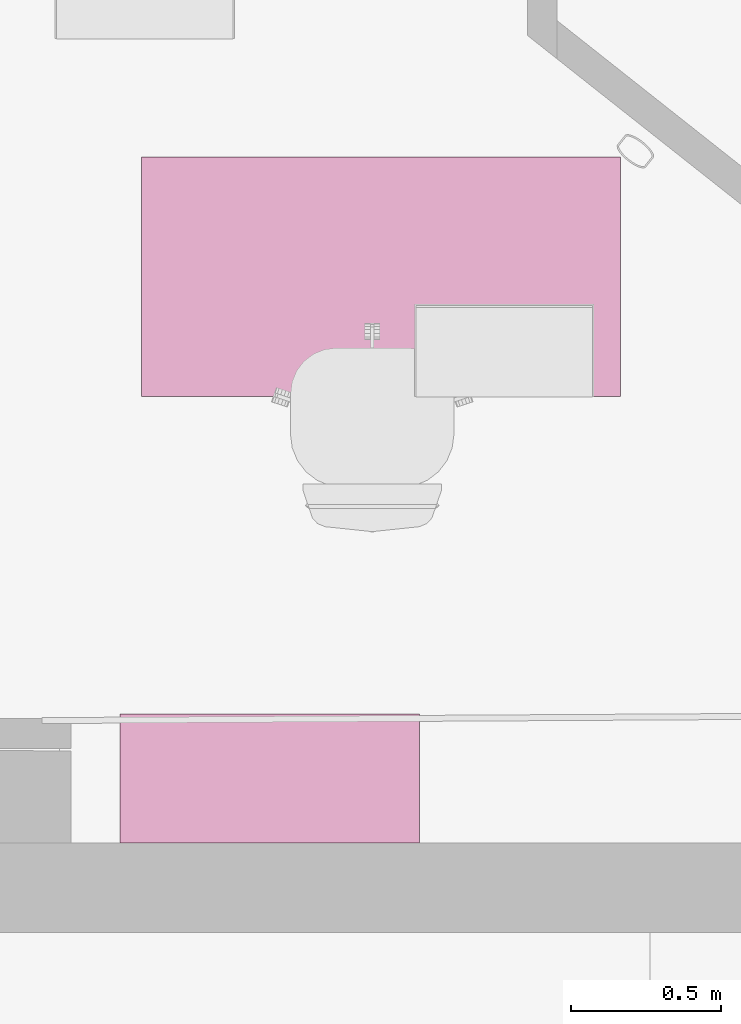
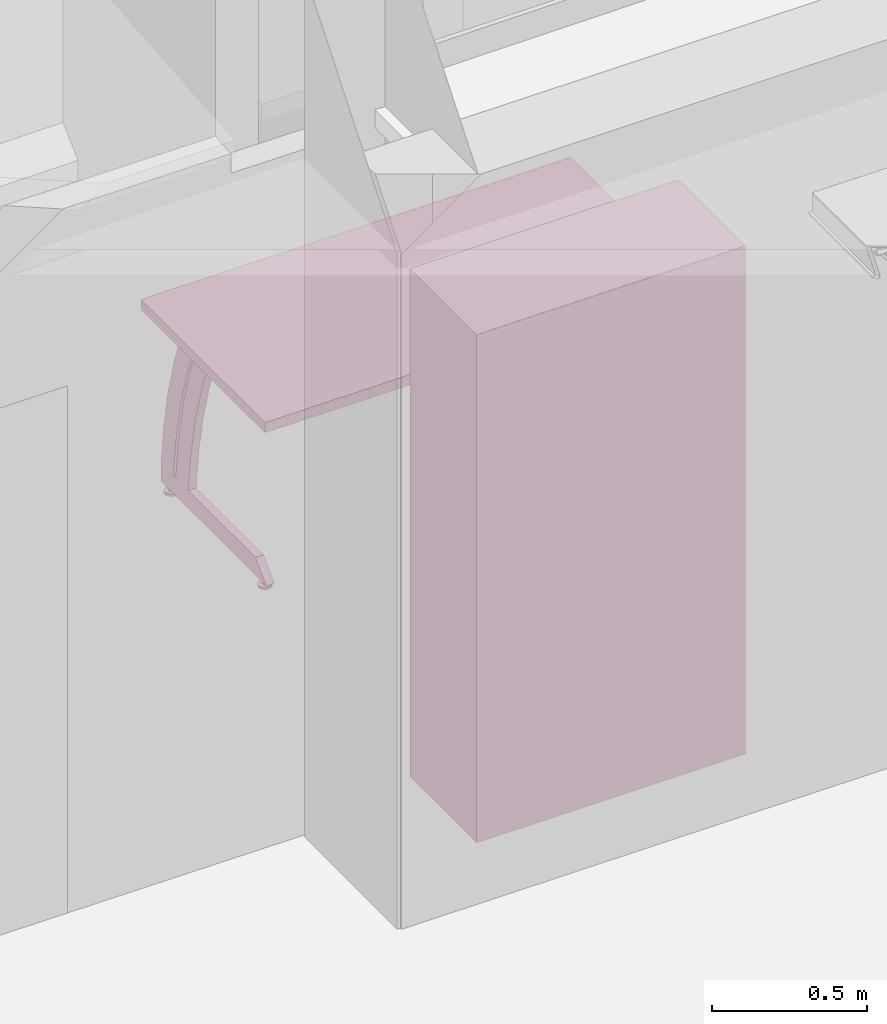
# One storey, part 84 of 128: 2 furnishings.
"""IFC2X3 building model written with IfcOpenShell, lengths in metres."""

from ifc_helpers import new_model, entity, si_unit, converted_unit, derived_unit, direction, frame, origin, origin_2d_with_axis, place, context, subcontext, project, spatial, rectangle, extrude, faceted_brep, source, transform, mapped, material, type_object, type_shapes, element, save


model = new_model("IFC2X3")

# Units and contexts
model_context = context("Model", 3, precision=1e-05, world=origin(), true_north=direction((6.123031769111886e-17, 1.0)))
body_context = subcontext(model_context, "Body", "Model", "MODEL_VIEW")
ifc_project = project(units=[si_unit("LENGTHUNIT", "METRE"), si_unit("AREAUNIT", "SQUARE_METRE"), converted_unit("PLANEANGLEUNIT", "DEGREE", entity("IfcPlaneAngleMeasure", 0.017453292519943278), si_unit("PLANEANGLEUNIT", "RADIAN"), dimensions=[0, 0, 0, 0, 0, 0, 0]), derived_unit("THERMALTRANSMITTANCEUNIT", [(si_unit("MASSUNIT", "GRAM", prefix="KILO"), 1), (si_unit("THERMODYNAMICTEMPERATUREUNIT", "KELVIN"), -1), (si_unit("TIMEUNIT", "SECOND"), -3)])], contexts=[model_context])

# Site, building, storey
site_placement = place(None, origin())
site = spatial("IfcSite", under=ifc_project, at=site_placement, Name="Default", CompositionType="ELEMENT")
building_placement = place(site_placement, origin())
building = spatial("IfcBuilding", under=site, at=building_placement, CompositionType="ELEMENT")
storey_placement = place(building_placement, origin())
storey = spatial("IfcBuildingStorey", under=building, at=storey_placement, Name="00_RDC CAF", CompositionType="ELEMENT", Elevation=2.4982504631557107e-13)

# Furnishings
ifc_material = material(Name="ARC - Mo - Blanc")
furniture_type_1 = type_object("IfcFurnitureType", Name="Mo_Bureau:Mo_Bureau_1600x800mm", AssemblyPlace="NOTDEFINED", material=ifc_material)
shared_shape_1 = source(origin(), body_context, "Body", "Brep", [
    faceted_brep([(0.05999999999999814, -0.6962325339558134, 0.0), (0.03622358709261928, -0.6885071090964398, 0.0), (0.04076447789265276, -0.6822571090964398, 0.0), (0.04530536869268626, -0.6760071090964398, 0.0), (0.05265268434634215, -0.6736198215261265, 0.0), (0.059999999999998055, -0.6712325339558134, 0.0), (0.06734731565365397, -0.6736198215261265, 0.0), (0.03622358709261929, -0.6962325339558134, 0.0), (0.03622358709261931, -0.7039579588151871, 0.0), (0.04076447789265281, -0.7102079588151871, 0.0), (0.045305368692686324, -0.7164579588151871, 0.0), (0.05265268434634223, -0.7188452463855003, 0.0), (0.05999999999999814, -0.7212325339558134, 0.0), (0.07469463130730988, -0.6760071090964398, 0.0), (0.07923552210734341, -0.6822571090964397, 0.0), (0.08377641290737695, -0.6885071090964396, 0.0), (0.08377641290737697, -0.6962325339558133, 0.0), (0.0673473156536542, -0.7188452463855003, 0.0), (0.07469463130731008, -0.716457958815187, 0.0), (0.07923552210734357, -0.7102079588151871, 0.0), (0.08377641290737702, -0.703957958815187, 0.0), (0.05999999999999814, -0.6962325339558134, 0.024999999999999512), (0.0599999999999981, -0.6862325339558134, 0.024999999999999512), (0.05133974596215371, -0.6912325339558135, 0.024999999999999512), (0.05133974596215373, -0.7012325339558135, 0.024999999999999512), (0.05999999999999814, -0.7062325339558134, 0.024999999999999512), (0.06866025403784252, -0.6912325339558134, 0.024999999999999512), (0.06866025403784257, -0.7012325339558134, 0.024999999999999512), (0.05133974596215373, -0.7012325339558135, 0.010000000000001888), (0.05999999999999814, -0.7062325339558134, 0.010000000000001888), (0.05133974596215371, -0.6912325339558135, 0.010000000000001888), (0.05999999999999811, -0.6862325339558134, 0.010000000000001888), (0.06866025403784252, -0.6912325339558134, 0.010000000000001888), (0.06866025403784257, -0.7012325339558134, 0.010000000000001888), (0.05999999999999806, -0.6712325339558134, 0.010000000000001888), (0.0555460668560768, -0.6726797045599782, 0.010000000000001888), (0.051092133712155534, -0.6741268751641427, 0.010000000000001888), (0.04530536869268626, -0.6760071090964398, 0.010000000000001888), (0.06734731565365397, -0.6736198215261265, 0.010000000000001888), (0.07469463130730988, -0.6760071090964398, 0.010000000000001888), (0.07923552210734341, -0.6822571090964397, 0.010000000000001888), (0.08377641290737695, -0.6885071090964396, 0.010000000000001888), (0.08377641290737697, -0.6962325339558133, 0.010000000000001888), (0.08377641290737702, -0.703957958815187, 0.010000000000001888), (0.07923552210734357, -0.7102079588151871, 0.010000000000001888), (0.07469463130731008, -0.716457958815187, 0.010000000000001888), (0.06890786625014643, -0.7183381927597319, 0.010000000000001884), (0.06445393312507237, -0.7197853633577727, 0.010000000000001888), (0.05999999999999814, -0.7212325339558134, 0.010000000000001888), (0.05265268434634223, -0.7188452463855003, 0.010000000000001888), (0.045305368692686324, -0.7164579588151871, 0.010000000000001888), (0.03622358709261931, -0.7039579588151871, 0.010000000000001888), (0.04076447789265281, -0.7102079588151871, 0.010000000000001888), (0.04076447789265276, -0.6822571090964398, 0.010000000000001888), (0.03622358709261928, -0.6885071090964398, 0.010000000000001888), (0.03622358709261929, -0.6962325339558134, 0.010000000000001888)], [[[0, 1, 2]], [[0, 2, 3]], [[0, 3, 4]], [[0, 4, 5]], [[0, 5, 6]], [[0, 7, 1]], [[0, 8, 7]], [[0, 9, 8]], [[0, 10, 9]], [[0, 11, 10]], [[0, 12, 11]], [[0, 6, 13]], [[0, 13, 14]], [[0, 14, 15]], [[0, 15, 16]], [[0, 17, 12]], [[0, 18, 17]], [[0, 19, 18]], [[0, 20, 19]], [[0, 16, 20]], [[21, 22, 23]], [[23, 24, 21]], [[24, 25, 21]], [[21, 26, 22]], [[25, 27, 21]], [[26, 21, 27]], [[25, 24, 28, 29]], [[24, 23, 30, 28]], [[23, 22, 31, 30]], [[22, 26, 32, 31]], [[26, 27, 33, 32]], [[27, 25, 29, 33]], [[31, 34, 35]], [[31, 35, 36]], [[31, 36, 37]], [[31, 37, 30]], [[31, 38, 34]], [[31, 39, 38]], [[32, 39, 31]], [[32, 40, 39]], [[32, 41, 40]], [[32, 42, 41]], [[32, 43, 42]], [[32, 33, 43]], [[33, 44, 43]], [[33, 45, 44]], [[33, 29, 45]], [[29, 46, 45]], [[29, 47, 46]], [[29, 48, 47]], [[29, 49, 48]], [[29, 50, 49]], [[29, 28, 50]], [[30, 51, 28]], [[28, 51, 52]], [[28, 52, 50]], [[30, 37, 53]], [[30, 53, 54]], [[30, 54, 55]], [[30, 55, 51]], [[11, 12, 48, 49, 50, 10]], [[8, 9, 10, 50, 52, 51]], [[7, 8, 51, 55, 54, 1]], [[3, 37, 36, 35, 34, 5, 4]], [[54, 53, 37, 3, 2, 1]], [[6, 5, 34, 38, 39, 13]], [[15, 14, 13, 39, 40, 41]], [[16, 15, 41, 42, 43, 20]], [[18, 45, 46, 47, 48, 12, 17]], [[43, 44, 45, 18, 19, 20]]]),
    faceted_brep([(0.05999999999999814, -0.09132706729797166, 0.0), (0.03622358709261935, -0.08360164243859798, 0.0), (0.04076447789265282, -0.07735164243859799, 0.0), (0.0453053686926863, -0.07110164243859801, 0.0), (0.05265268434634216, -0.06871435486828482, 0.0), (0.059999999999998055, -0.06632706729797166, 0.0), (0.06734731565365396, -0.06871435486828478, 0.0), (0.03622358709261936, -0.09132706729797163, 0.0), (0.03622358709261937, -0.09905249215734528, 0.0), (0.04076447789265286, -0.10530249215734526, 0.0), (0.04530536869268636, -0.11155249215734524, 0.0), (0.05265268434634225, -0.11393977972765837, 0.0), (0.05999999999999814, -0.11632706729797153, 0.0), (0.07469463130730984, -0.0711016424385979, 0.0), (0.07923552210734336, -0.07735164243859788, 0.0), (0.08377641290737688, -0.08360164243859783, 0.0), (0.0837764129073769, -0.09132706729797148, 0.0), (0.06734731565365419, -0.11393977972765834, 0.0), (0.07469463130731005, -0.11155249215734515, 0.0), (0.07923552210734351, -0.10530249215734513, 0.0), (0.08377641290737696, -0.09905249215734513, 0.0), (0.05999999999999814, -0.09132706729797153, 0.024999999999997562), (0.0599999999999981, -0.08132706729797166, 0.024999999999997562), (0.05133974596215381, -0.08632706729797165, 0.024999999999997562), (0.05133974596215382, -0.09632706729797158, 0.024999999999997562), (0.05999999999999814, -0.10132706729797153, 0.024999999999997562), (0.06866025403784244, -0.0863270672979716, 0.024999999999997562), (0.06866025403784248, -0.09632706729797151, 0.024999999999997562), (0.05133974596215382, -0.09632706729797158, 0.009999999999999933), (0.05999999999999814, -0.10132706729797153, 0.009999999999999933), (0.05133974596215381, -0.08632706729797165, 0.009999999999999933), (0.05999999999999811, -0.08132706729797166, 0.009999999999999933), (0.06866025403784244, -0.0863270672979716, 0.009999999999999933), (0.06866025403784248, -0.09632706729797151, 0.009999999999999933), (0.05999999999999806, -0.06632706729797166, 0.009999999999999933), (0.055546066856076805, -0.06777423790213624, 0.00999999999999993), (0.051092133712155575, -0.06922140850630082, 0.00999999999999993), (0.0453053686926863, -0.07110164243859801, 0.009999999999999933), (0.06734731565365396, -0.06871435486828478, 0.00999999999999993), (0.07469463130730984, -0.0711016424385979, 0.009999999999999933), (0.07923552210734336, -0.07735164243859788, 0.00999999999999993), (0.08377641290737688, -0.08360164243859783, 0.009999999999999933), (0.0837764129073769, -0.09132706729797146, 0.00999999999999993), (0.08377641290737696, -0.09905249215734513, 0.009999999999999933), (0.07923552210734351, -0.10530249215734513, 0.00999999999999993), (0.07469463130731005, -0.11155249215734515, 0.009999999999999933), (0.0689078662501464, -0.11343272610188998, 0.00999999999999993), (0.06445393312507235, -0.11487989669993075, 0.00999999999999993), (0.05999999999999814, -0.11632706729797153, 0.009999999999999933), (0.05265268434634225, -0.11393977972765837, 0.00999999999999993), (0.04530536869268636, -0.11155249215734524, 0.009999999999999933), (0.03622358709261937, -0.09905249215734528, 0.009999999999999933), (0.04076447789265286, -0.10530249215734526, 0.00999999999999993), (0.04076447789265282, -0.07735164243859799, 0.00999999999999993), (0.03622358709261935, -0.08360164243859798, 0.009999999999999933), (0.03622358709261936, -0.09132706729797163, 0.00999999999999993)], [[[0, 1, 2]], [[0, 2, 3]], [[0, 3, 4]], [[0, 4, 5]], [[0, 5, 6]], [[0, 7, 1]], [[0, 8, 7]], [[0, 9, 8]], [[0, 10, 9]], [[0, 11, 10]], [[0, 12, 11]], [[0, 6, 13]], [[0, 13, 14]], [[0, 14, 15]], [[0, 15, 16]], [[0, 17, 12]], [[0, 18, 17]], [[0, 19, 18]], [[0, 20, 19]], [[0, 16, 20]], [[21, 22, 23]], [[23, 24, 21]], [[24, 25, 21]], [[21, 26, 22]], [[25, 27, 21]], [[26, 21, 27]], [[25, 24, 28, 29]], [[24, 23, 30, 28]], [[23, 22, 31, 30]], [[22, 26, 32, 31]], [[26, 27, 33, 32]], [[27, 25, 29, 33]], [[31, 34, 35]], [[31, 35, 36]], [[31, 36, 37]], [[31, 37, 30]], [[31, 38, 34]], [[31, 39, 38]], [[32, 39, 31]], [[32, 40, 39]], [[32, 41, 40]], [[32, 42, 41]], [[32, 43, 42]], [[32, 33, 43]], [[33, 44, 43]], [[33, 45, 44]], [[33, 29, 45]], [[29, 46, 45]], [[29, 47, 46]], [[29, 48, 47]], [[29, 49, 48]], [[29, 50, 49]], [[29, 28, 50]], [[30, 51, 28]], [[28, 51, 52]], [[28, 52, 50]], [[30, 37, 53]], [[30, 53, 54]], [[30, 54, 55]], [[30, 55, 51]], [[11, 12, 48, 49, 50, 10]], [[8, 9, 10, 50, 52, 51]], [[7, 8, 51, 55, 54, 1]], [[3, 37, 36, 35, 34, 5, 4]], [[54, 53, 37, 3, 2, 1]], [[6, 5, 34, 38, 39, 13]], [[15, 14, 13, 39, 40, 41]], [[16, 15, 41, 42, 43, 20]], [[18, 45, 46, 47, 48, 12, 17]], [[43, 44, 45, 18, 19, 20]]]),
    faceted_brep([(0.04499999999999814, -0.22742160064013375, 0.09500000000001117), (0.04499999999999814, -0.24409269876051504, 0.24614112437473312), (0.04499999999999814, -0.2727144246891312, 0.3954808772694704), (0.04499999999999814, -0.313105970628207, 0.542075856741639), (0.04499999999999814, -0.36501217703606, 0.684999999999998), (0.04499999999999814, -0.27887211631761, 0.6849999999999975), (0.04499999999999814, -0.22919246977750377, 0.5416912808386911), (0.04499999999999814, -0.19055436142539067, 0.39501969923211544), (0.04499999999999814, -0.1631815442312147, 0.24583462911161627), (0.04499999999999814, -0.14723253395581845, 0.09500000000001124), (0.07499999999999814, -0.3650121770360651, 0.6850000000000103), (0.07499999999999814, -0.313105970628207, 0.542075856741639), (0.07499999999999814, -0.2727144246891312, 0.3954808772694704), (0.07499999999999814, -0.24409269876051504, 0.24614112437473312), (0.07499999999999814, -0.22742160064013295, 0.09499999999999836), (0.07499999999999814, -0.14723253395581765, 0.09499999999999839), (0.07499999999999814, -0.1631815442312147, 0.24583462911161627), (0.07499999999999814, -0.19055436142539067, 0.39501969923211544), (0.07499999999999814, -0.22919246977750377, 0.5416912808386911), (0.07499999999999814, -0.2788721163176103, 0.684999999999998)], [[[0, 1, 2, 3, 4, 5, 6, 7, 8, 9]], [[10, 11, 12, 13, 14, 15, 16, 17, 18, 19]], [[10, 19, 5, 4]], [[3, 11, 10, 4]], [[2, 12, 11, 3]], [[0, 14, 13, 1]], [[12, 2, 1, 13]], [[15, 14, 0, 9]], [[8, 7, 17, 16]], [[15, 9, 8, 16]], [[6, 5, 19, 18]], [[6, 18, 17, 7]]]),
    faceted_brep([(0.04499999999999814, -0.1314216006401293, 0.09500000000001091), (0.04499999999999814, -0.1480926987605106, 0.24614112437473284), (0.04499999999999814, -0.17671442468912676, 0.3954808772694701), (0.04499999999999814, -0.21710597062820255, 0.5420758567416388), (0.04499999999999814, -0.2690121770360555, 0.6849999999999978), (0.04499999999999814, -0.18287211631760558, 0.6849999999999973), (0.04499999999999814, -0.13319246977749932, 0.5416912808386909), (0.04499999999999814, -0.09455436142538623, 0.39501969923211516), (0.04499999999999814, -0.06718154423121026, 0.24583462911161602), (0.04499999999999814, -0.05123253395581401, 0.09500000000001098), (0.07499999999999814, -0.2690121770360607, 0.6850000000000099), (0.07499999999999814, -0.21710597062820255, 0.5420758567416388), (0.07499999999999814, -0.17671442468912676, 0.3954808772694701), (0.07499999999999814, -0.1480926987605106, 0.24614112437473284), (0.07499999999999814, -0.1314216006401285, 0.09499999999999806), (0.07499999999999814, -0.051232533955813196, 0.09499999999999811), (0.07499999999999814, -0.06718154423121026, 0.24583462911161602), (0.07499999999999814, -0.09455436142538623, 0.39501969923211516), (0.07499999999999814, -0.13319246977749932, 0.5416912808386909), (0.07499999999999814, -0.18287211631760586, 0.6849999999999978)], [[[0, 1, 2, 3, 4, 5, 6, 7, 8, 9]], [[10, 11, 12, 13, 14, 15, 16, 17, 18, 19]], [[10, 19, 5, 4]], [[3, 11, 10, 4]], [[2, 12, 11, 3]], [[0, 14, 13, 1]], [[12, 2, 1, 13]], [[15, 14, 0, 9]], [[8, 7, 17, 16]], [[15, 9, 8, 16]], [[6, 5, 19, 18]], [[6, 18, 17, 7]]]),
    faceted_brep([(0.04499999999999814, -0.05123253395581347, 0.024999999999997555), (0.04499999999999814, -0.7312325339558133, 0.024999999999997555), (0.04499999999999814, -0.6612325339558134, 0.09499999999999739), (0.04499999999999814, -0.05123253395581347, 0.09499999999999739), (0.07499999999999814, -0.05123253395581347, 0.024999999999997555), (0.07499999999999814, -0.05123253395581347, 0.09499999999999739), (0.07499999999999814, -0.6612325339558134, 0.09499999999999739), (0.07499999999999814, -0.7312325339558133, 0.024999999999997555)], [[[0, 1, 2, 3]], [[4, 5, 6, 7]], [[5, 4, 0, 3]], [[6, 5, 3, 2]], [[4, 7, 1, 0]], [[7, 6, 2, 1]]]),
    faceted_brep([(1.5399999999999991, -0.6962325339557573, 0.0), (1.5162235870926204, -0.6885071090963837, 0.0), (1.5207644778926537, -0.6822571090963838, 0.0), (1.5253053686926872, -0.6760071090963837, 0.0), (1.532652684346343, -0.6736198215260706, 0.0), (1.5399999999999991, -0.6712325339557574, 0.0), (1.547347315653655, -0.6736198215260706, 0.0), (1.5162235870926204, -0.6962325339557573, 0.0), (1.5162235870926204, -0.7039579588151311, 0.0), (1.5207644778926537, -0.710207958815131, 0.0), (1.5253053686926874, -0.7164579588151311, 0.0), (1.5326526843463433, -0.7188452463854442, 0.0), (1.5399999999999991, -0.7212325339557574, 0.0), (1.554694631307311, -0.6760071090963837, 0.0), (1.5592355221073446, -0.6822571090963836, 0.0), (1.563776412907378, -0.6885071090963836, 0.0), (1.563776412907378, -0.6962325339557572, 0.0), (1.5473473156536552, -0.7188452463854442, 0.0), (1.5546946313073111, -0.716457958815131, 0.0), (1.5592355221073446, -0.710207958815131, 0.0), (1.563776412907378, -0.7039579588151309, 0.0), (1.5399999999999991, -0.6962325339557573, 0.024999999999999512), (1.5399999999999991, -0.6862325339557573, 0.024999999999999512), (1.5313397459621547, -0.6912325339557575, 0.024999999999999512), (1.5313397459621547, -0.7012325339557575, 0.024999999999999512), (1.5399999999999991, -0.7062325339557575, 0.024999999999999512), (1.5486602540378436, -0.6912325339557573, 0.024999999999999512), (1.5486602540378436, -0.7012325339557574, 0.024999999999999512), (1.5313397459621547, -0.7012325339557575, 0.010000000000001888), (1.5399999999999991, -0.7062325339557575, 0.010000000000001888), (1.5313397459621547, -0.6912325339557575, 0.010000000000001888), (1.5399999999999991, -0.6862325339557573, 0.010000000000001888), (1.5486602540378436, -0.6912325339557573, 0.010000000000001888), (1.5486602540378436, -0.7012325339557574, 0.010000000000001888), (1.5399999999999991, -0.6712325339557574, 0.010000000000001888), (1.5355460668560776, -0.672679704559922, 0.010000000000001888), (1.5310921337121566, -0.6741268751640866, 0.010000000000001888), (1.5253053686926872, -0.6760071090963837, 0.010000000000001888), (1.547347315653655, -0.6736198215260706, 0.010000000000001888), (1.554694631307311, -0.6760071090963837, 0.010000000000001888), (1.5592355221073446, -0.6822571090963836, 0.010000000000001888), (1.563776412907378, -0.6885071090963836, 0.010000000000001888), (1.563776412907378, -0.6962325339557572, 0.010000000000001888), (1.563776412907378, -0.7039579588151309, 0.010000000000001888), (1.5592355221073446, -0.710207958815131, 0.010000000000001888), (1.5546946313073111, -0.716457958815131, 0.010000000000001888), (1.5489078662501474, -0.7183381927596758, 0.010000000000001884), (1.5444539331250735, -0.7197853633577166, 0.010000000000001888), (1.5399999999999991, -0.7212325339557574, 0.010000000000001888), (1.5326526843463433, -0.7188452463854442, 0.010000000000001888), (1.5253053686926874, -0.7164579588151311, 0.010000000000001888), (1.5162235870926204, -0.7039579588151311, 0.010000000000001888), (1.5207644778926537, -0.710207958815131, 0.010000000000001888), (1.5207644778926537, -0.6822571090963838, 0.010000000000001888), (1.5162235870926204, -0.6885071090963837, 0.010000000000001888), (1.5162235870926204, -0.6962325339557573, 0.010000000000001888)], [[[0, 1, 2]], [[0, 2, 3]], [[0, 3, 4]], [[0, 4, 5]], [[0, 5, 6]], [[0, 7, 1]], [[0, 8, 7]], [[0, 9, 8]], [[0, 10, 9]], [[0, 11, 10]], [[0, 12, 11]], [[0, 6, 13]], [[0, 13, 14]], [[0, 14, 15]], [[0, 15, 16]], [[0, 17, 12]], [[0, 18, 17]], [[0, 19, 18]], [[0, 20, 19]], [[0, 16, 20]], [[21, 22, 23]], [[23, 24, 21]], [[24, 25, 21]], [[21, 26, 22]], [[25, 27, 21]], [[26, 21, 27]], [[25, 24, 28, 29]], [[24, 23, 30, 28]], [[23, 22, 31, 30]], [[22, 26, 32, 31]], [[26, 27, 33, 32]], [[27, 25, 29, 33]], [[31, 34, 35]], [[31, 35, 36]], [[31, 36, 37]], [[31, 37, 30]], [[31, 38, 34]], [[31, 39, 38]], [[32, 39, 31]], [[32, 40, 39]], [[32, 41, 40]], [[32, 42, 41]], [[32, 43, 42]], [[32, 33, 43]], [[33, 44, 43]], [[33, 45, 44]], [[33, 29, 45]], [[29, 46, 45]], [[29, 47, 46]], [[29, 48, 47]], [[29, 49, 48]], [[29, 50, 49]], [[29, 28, 50]], [[30, 51, 28]], [[28, 51, 52]], [[28, 52, 50]], [[30, 37, 53]], [[30, 53, 54]], [[30, 54, 55]], [[30, 55, 51]], [[11, 12, 48, 49, 50, 10]], [[8, 9, 10, 50, 52, 51]], [[7, 8, 51, 55, 54, 1]], [[3, 37, 36, 35, 34, 5, 4]], [[54, 53, 37, 3, 2, 1]], [[6, 5, 34, 38, 39, 13]], [[15, 14, 13, 39, 40, 41]], [[16, 15, 41, 42, 43, 20]], [[18, 45, 46, 47, 48, 12, 17]], [[43, 44, 45, 18, 19, 20]]]),
    faceted_brep([(1.5399999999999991, -0.09132706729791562, 0.0), (1.5162235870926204, -0.08360164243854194, 0.0), (1.5207644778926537, -0.07735164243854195, 0.0), (1.5253053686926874, -0.07110164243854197, 0.0), (1.5326526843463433, -0.06871435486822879, 0.0), (1.5399999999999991, -0.06632706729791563, 0.0), (1.547347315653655, -0.06871435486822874, 0.0), (1.5162235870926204, -0.09132706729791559, 0.0), (1.5162235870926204, -0.09905249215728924, 0.0), (1.5207644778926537, -0.10530249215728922, 0.0), (1.5253053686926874, -0.1115524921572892, 0.0), (1.5326526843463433, -0.11393977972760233, 0.0), (1.5399999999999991, -0.11632706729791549, 0.0), (1.554694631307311, -0.07110164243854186, 0.0), (1.5592355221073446, -0.07735164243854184, 0.0), (1.563776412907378, -0.08360164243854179, 0.0), (1.563776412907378, -0.09132706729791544, 0.0), (1.5473473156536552, -0.1139397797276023, 0.0), (1.5546946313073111, -0.11155249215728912, 0.0), (1.5592355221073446, -0.1053024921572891, 0.0), (1.563776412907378, -0.09905249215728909, 0.0), (1.5399999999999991, -0.0913270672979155, 0.024999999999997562), (1.5399999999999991, -0.08132706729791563, 0.024999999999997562), (1.531339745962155, -0.08632706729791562, 0.024999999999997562), (1.531339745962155, -0.09632706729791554, 0.024999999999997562), (1.5399999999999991, -0.10132706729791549, 0.024999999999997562), (1.5486602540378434, -0.08632706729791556, 0.024999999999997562), (1.5486602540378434, -0.09632706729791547, 0.024999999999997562), (1.531339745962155, -0.09632706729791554, 0.009999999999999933), (1.5399999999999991, -0.10132706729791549, 0.009999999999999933), (1.531339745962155, -0.08632706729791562, 0.009999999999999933), (1.5399999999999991, -0.08132706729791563, 0.009999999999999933), (1.5486602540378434, -0.08632706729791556, 0.009999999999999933), (1.5486602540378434, -0.09632706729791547, 0.009999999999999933), (1.5399999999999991, -0.06632706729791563, 0.009999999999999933), (1.5355460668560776, -0.0677742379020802, 0.00999999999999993), (1.5310921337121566, -0.06922140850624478, 0.00999999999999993), (1.5253053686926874, -0.07110164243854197, 0.009999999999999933), (1.547347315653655, -0.06871435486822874, 0.00999999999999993), (1.554694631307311, -0.07110164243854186, 0.009999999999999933), (1.5592355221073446, -0.07735164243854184, 0.00999999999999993), (1.563776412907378, -0.08360164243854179, 0.009999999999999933), (1.563776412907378, -0.09132706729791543, 0.00999999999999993), (1.563776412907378, -0.09905249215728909, 0.009999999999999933), (1.5592355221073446, -0.1053024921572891, 0.00999999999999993), (1.5546946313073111, -0.11155249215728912, 0.009999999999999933), (1.5489078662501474, -0.11343272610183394, 0.00999999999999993), (1.5444539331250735, -0.11487989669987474, 0.00999999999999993), (1.5399999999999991, -0.11632706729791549, 0.009999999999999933), (1.5326526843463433, -0.11393977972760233, 0.00999999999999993), (1.5253053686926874, -0.1115524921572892, 0.009999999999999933), (1.5162235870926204, -0.09905249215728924, 0.009999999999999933), (1.5207644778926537, -0.10530249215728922, 0.00999999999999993), (1.5207644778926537, -0.07735164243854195, 0.00999999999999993), (1.5162235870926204, -0.08360164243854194, 0.009999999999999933), (1.5162235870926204, -0.09132706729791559, 0.00999999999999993)], [[[0, 1, 2]], [[0, 2, 3]], [[0, 3, 4]], [[0, 4, 5]], [[0, 5, 6]], [[0, 7, 1]], [[0, 8, 7]], [[0, 9, 8]], [[0, 10, 9]], [[0, 11, 10]], [[0, 12, 11]], [[0, 6, 13]], [[0, 13, 14]], [[0, 14, 15]], [[0, 15, 16]], [[0, 17, 12]], [[0, 18, 17]], [[0, 19, 18]], [[0, 20, 19]], [[0, 16, 20]], [[21, 22, 23]], [[23, 24, 21]], [[24, 25, 21]], [[21, 26, 22]], [[25, 27, 21]], [[26, 21, 27]], [[25, 24, 28, 29]], [[24, 23, 30, 28]], [[23, 22, 31, 30]], [[22, 26, 32, 31]], [[26, 27, 33, 32]], [[27, 25, 29, 33]], [[31, 34, 35]], [[31, 35, 36]], [[31, 36, 37]], [[31, 37, 30]], [[31, 38, 34]], [[31, 39, 38]], [[32, 39, 31]], [[32, 40, 39]], [[32, 41, 40]], [[32, 42, 41]], [[32, 43, 42]], [[32, 33, 43]], [[33, 44, 43]], [[33, 45, 44]], [[33, 29, 45]], [[29, 46, 45]], [[29, 47, 46]], [[29, 48, 47]], [[29, 49, 48]], [[29, 50, 49]], [[29, 28, 50]], [[30, 51, 28]], [[28, 51, 52]], [[28, 52, 50]], [[30, 37, 53]], [[30, 53, 54]], [[30, 54, 55]], [[30, 55, 51]], [[11, 12, 48, 49, 50, 10]], [[8, 9, 10, 50, 52, 51]], [[7, 8, 51, 55, 54, 1]], [[3, 37, 36, 35, 34, 5, 4]], [[54, 53, 37, 3, 2, 1]], [[6, 5, 34, 38, 39, 13]], [[15, 14, 13, 39, 40, 41]], [[16, 15, 41, 42, 43, 20]], [[18, 45, 46, 47, 48, 12, 17]], [[43, 44, 45, 18, 19, 20]]]),
    faceted_brep([(1.524999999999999, -0.22742160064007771, 0.09500000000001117), (1.524999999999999, -0.244092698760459, 0.24614112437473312), (1.524999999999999, -0.27271442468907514, 0.3954808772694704), (1.524999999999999, -0.31310597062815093, 0.542075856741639), (1.524999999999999, -0.3650121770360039, 0.684999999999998), (1.524999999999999, -0.278872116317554, 0.6849999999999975), (1.524999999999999, -0.22919246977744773, 0.5416912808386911), (1.524999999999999, -0.19055436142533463, 0.39501969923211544), (1.524999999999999, -0.16318154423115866, 0.24583462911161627), (1.524999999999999, -0.1472325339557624, 0.09500000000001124), (1.5549999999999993, -0.3650121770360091, 0.6850000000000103), (1.5549999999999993, -0.31310597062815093, 0.542075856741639), (1.5549999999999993, -0.27271442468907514, 0.3954808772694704), (1.5549999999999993, -0.244092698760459, 0.24614112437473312), (1.5549999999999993, -0.2274216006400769, 0.09499999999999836), (1.5549999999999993, -0.1472325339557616, 0.09499999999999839), (1.5549999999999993, -0.16318154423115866, 0.24583462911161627), (1.5549999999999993, -0.19055436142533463, 0.39501969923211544), (1.5549999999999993, -0.22919246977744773, 0.5416912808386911), (1.5549999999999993, -0.27887211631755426, 0.684999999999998)], [[[0, 1, 2, 3, 4, 5, 6, 7, 8, 9]], [[10, 11, 12, 13, 14, 15, 16, 17, 18, 19]], [[10, 19, 5, 4]], [[3, 11, 10, 4]], [[2, 12, 11, 3]], [[0, 14, 13, 1]], [[12, 2, 1, 13]], [[15, 14, 0, 9]], [[8, 7, 17, 16]], [[15, 9, 8, 16]], [[6, 5, 19, 18]], [[6, 18, 17, 7]]]),
    faceted_brep([(1.524999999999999, -0.13142160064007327, 0.09500000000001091), (1.524999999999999, -0.14809269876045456, 0.24614112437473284), (1.524999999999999, -0.17671442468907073, 0.3954808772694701), (1.524999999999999, -0.21710597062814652, 0.5420758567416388), (1.524999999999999, -0.2690121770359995, 0.6849999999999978), (1.524999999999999, -0.18287211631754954, 0.6849999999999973), (1.524999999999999, -0.13319246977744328, 0.5416912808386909), (1.524999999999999, -0.09455436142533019, 0.39501969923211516), (1.524999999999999, -0.06718154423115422, 0.24583462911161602), (1.524999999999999, -0.05123253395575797, 0.09500000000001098), (1.5549999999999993, -0.2690121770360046, 0.6850000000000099), (1.5549999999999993, -0.21710597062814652, 0.5420758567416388), (1.5549999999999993, -0.17671442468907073, 0.3954808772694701), (1.5549999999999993, -0.14809269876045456, 0.24614112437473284), (1.5549999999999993, -0.13142160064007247, 0.09499999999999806), (1.5549999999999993, -0.05123253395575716, 0.09499999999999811), (1.5549999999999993, -0.06718154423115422, 0.24583462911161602), (1.5549999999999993, -0.09455436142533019, 0.39501969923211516), (1.5549999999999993, -0.13319246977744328, 0.5416912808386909), (1.5549999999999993, -0.18287211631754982, 0.6849999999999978)], [[[0, 1, 2, 3, 4, 5, 6, 7, 8, 9]], [[10, 11, 12, 13, 14, 15, 16, 17, 18, 19]], [[10, 19, 5, 4]], [[3, 11, 10, 4]], [[2, 12, 11, 3]], [[0, 14, 13, 1]], [[12, 2, 1, 13]], [[15, 14, 0, 9]], [[8, 7, 17, 16]], [[15, 9, 8, 16]], [[6, 5, 19, 18]], [[6, 18, 17, 7]]]),
    faceted_brep([(1.524999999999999, -0.05123253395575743, 0.024999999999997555), (1.524999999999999, -0.7312325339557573, 0.024999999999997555), (1.524999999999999, -0.6612325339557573, 0.09499999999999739), (1.524999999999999, -0.05123253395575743, 0.09499999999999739), (1.5549999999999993, -0.05123253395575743, 0.024999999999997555), (1.5549999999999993, -0.05123253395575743, 0.09499999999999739), (1.5549999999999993, -0.6612325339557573, 0.09499999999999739), (1.5549999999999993, -0.7312325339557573, 0.024999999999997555)], [[[0, 1, 2, 3]], [[4, 5, 6, 7]], [[5, 4, 0, 3]], [[6, 5, 3, 2]], [[4, 7, 1, 0]], [[7, 6, 2, 1]]]),
    faceted_brep([(0.0, -0.7999999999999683, 0.685), (0.0, 0.0, 0.685), (1.5999999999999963, 0.0, 0.684999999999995), (1.5999999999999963, -0.7999999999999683, 0.684999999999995), (0.0, -0.7999999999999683, 0.7250000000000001), (1.5999999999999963, -0.7999999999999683, 0.7249999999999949), (1.5999999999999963, 0.0, 0.7249999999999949), (0.0, 0.0, 0.7250000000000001)], [[[0, 1, 2, 3]], [[4, 5, 6, 7]], [[5, 4, 0, 3]], [[6, 5, 3, 2]], [[7, 6, 2, 1]], [[4, 7, 1, 0]]]),
])
type_shapes(furniture_type_1, [shared_shape_1])
furnishing_1_placement = place(storey_placement, frame((16.13097850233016, 132.08075068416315, 0.0)))
element("IfcFurnishingElement", 1, at=furnishing_1_placement, inside=storey, type_object=furniture_type_1, material=ifc_material, Name="Mo_Bureau:Mo_Bureau_1600x800mm", ObjectType="Mo_Bureau:Mo_Bureau_1600x800mm", context=body_context, shape_type="MappedRepresentation", body=[
    mapped(shared_shape_1, transform((0.0, 0.0, 0.0), scale=1.0)),
])
furniture_type_2 = type_object("IfcFurnitureType", Name="Mo_Armoire_Porte_Coulissante:Mo_Armoire_Haute_1000x430x2000mm", AssemblyPlace="NOTDEFINED", material=ifc_material)
shared_shape_2 = source(origin(), body_context, "Body", "SweptSolid", [
    extrude(rectangle(XDim=0.9999999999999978, YDim=0.4300000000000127, at=origin_2d_with_axis()), frame((0.04470032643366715, -0.2150000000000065, 0.0), z_axis=(0.0, 0.0, 1.0), x_axis=(-1.0, 0.0, 0.0)), (0.0, 0.0, 1.0), 2.0),
])
type_shapes(furniture_type_2, [shared_shape_2])
furnishing_2_placement = place(storey_placement, frame((16.60365015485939, 129.79035589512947, 0.0), z_axis=(0.0, 0.0, 1.0), x_axis=(-1.0, 0.0, 0.0)))
element("IfcFurnishingElement", 2, at=furnishing_2_placement, inside=storey, type_object=furniture_type_2, material=ifc_material, Name="Mo_Armoire_Porte_Coulissante:Mo_Armoire_Haute_1000x430x2000mm", ObjectType="Mo_Armoire_Porte_Coulissante:Mo_Armoire_Haute_1000x430x2000mm", context=body_context, shape_type="MappedRepresentation", body=[
    mapped(shared_shape_2, transform((0.0, 0.0, 0.0), scale=1.0)),
])

save(model, "model.ifc")
